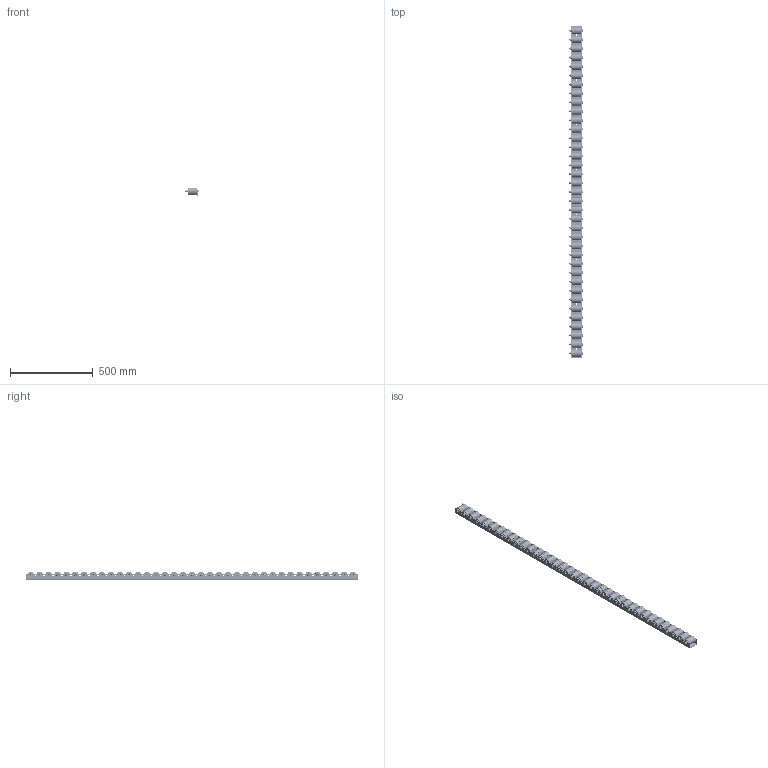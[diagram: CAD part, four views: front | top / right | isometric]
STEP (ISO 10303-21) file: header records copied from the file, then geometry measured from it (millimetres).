
FILE_DESCRIPTION( ( 'Unknown' ), '1' );
FILE_NAME( 'D:/Construktor/Listwy rolkowe 2015/Listwa T671/Listwa T671.stp', 'Unknown', ( 'Unknown' ), ( 'Unknown' ), 'PSStep 17.0.49', 'Unknown', ' ' );
FILE_SCHEMA( ( 'AUTOMOTIVE_DESIGN { 1 0 10303 214 1 1 1 1 }' ) );
Length unit declared in the file: millimetre
Products named in the file (13): Assem1; DIN_931_M8x35; DIN_931_M8x35-oa0; DIN_931_M8x35-oa1; Nut_DIN_980_M_M8_v10.50; Ceownik T670; Rolka 611; Rolka 611-oa2; Rolka 611-oa3; Rolka 611-oa4; Rolka 611-oa5; Rolka 611-oa6; Rolka 611-oa7
Assembly tree (186 placements, depth 2):
  Assem1
    DIN_931_M8x35  x35
    DIN_931_M8x35-oa0
    DIN_931_M8x35-oa1
    Nut_DIN_980_M_M8_v10.50  x37
    Ceownik T670
    Rolka 611  x105
    Rolka 611-oa2
    Rolka 611-oa3
    Rolka 611-oa4
    Rolka 611-oa5
    Rolka 611-oa6
    Rolka 611-oa7
Bounding box: 80.3 x 2000 x 50.98 mm (x, y, z)
Volume: 2892626.3 mm3; surface area: 1530661.2 mm2
Topology: 186 solids, 186 shells, 7753 faces, 20338 edges, 13401 vertices
Faces by surface type: plane 5708, cylinder 1120, cone 555, torus 370
Full cylindrical faces by diameter (mm): 6.466 x37, 6.647 x37, 6.697 x37, 8 x74, 8.2 x154, 8.3 x111, 8.4 x37, 11.63 x37, 12.5 x37, 14 x222, 30 x111, 32 x111, 42 x111
Entity records: 25994 total; most frequent: DIRECTION 3726, CARTESIAN_POINT 3684, ORIENTED_EDGE 2844, AXIS2_PLACEMENT_3D 1548, EDGE_CURVE 1422, EDGE_LOOP 1218, VERTEX_POINT 1082, FACE_OUTER_BOUND 861
